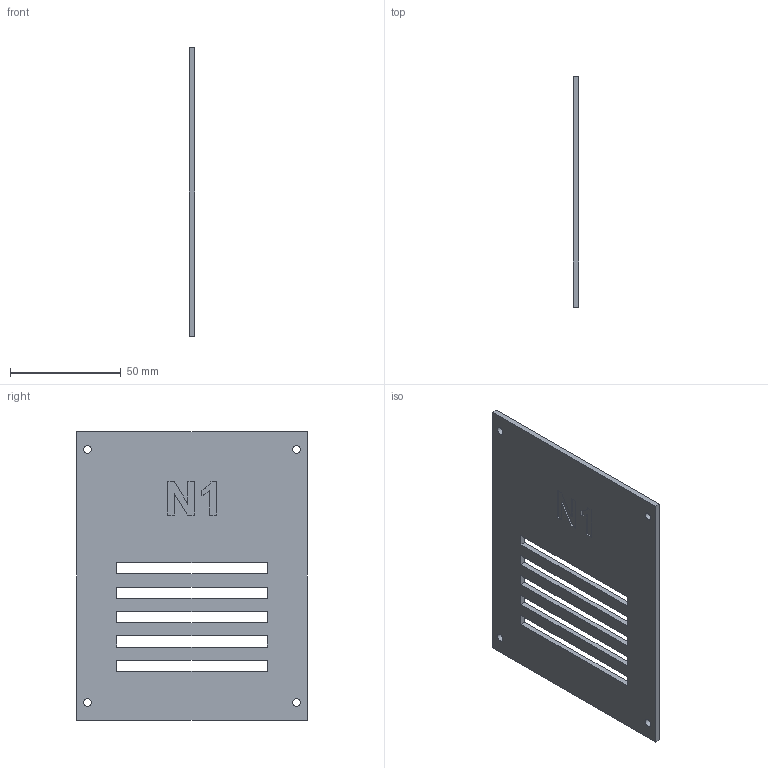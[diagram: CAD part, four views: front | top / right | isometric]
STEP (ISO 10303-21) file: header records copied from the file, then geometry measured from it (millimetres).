
FILE_DESCRIPTION(('FreeCAD Model'),'2;1');
FILE_NAME('Open CASCADE Shape Model','2026-11-08T23:31:28',('FreeCAD'),( 'FreeCAD'),'Open CASCADE STEP processor 7.8','FreeCAD','Unknown');
FILE_SCHEMA(('AUTOMOTIVE_DESIGN { 1 0 10303 214 1 1 1 1 }'));
Length unit declared in the file: millimetre
Products named in the file (1): Open CASCADE STEP translator 7.8 6
Bounding box: 2.4 x 104 x 130 mm (x, y, z)
Volume: 28148.2 mm3; surface area: 26640.2 mm2
Topology: 1 solids, 1 shells, 50 faces, 138 edges, 92 vertices
Faces by surface type: plane 43, cylinder 4, extrusion 3
Full cylindrical faces by diameter (mm): 3.5 x4
Entity records: 1661 total; most frequent: CARTESIAN_POINT 338, ORIENTED_EDGE 276, DIRECTION 239, EDGE_CURVE 138, VECTOR 127, LINE 124, VERTEX_POINT 92, FACE_BOUND 70
